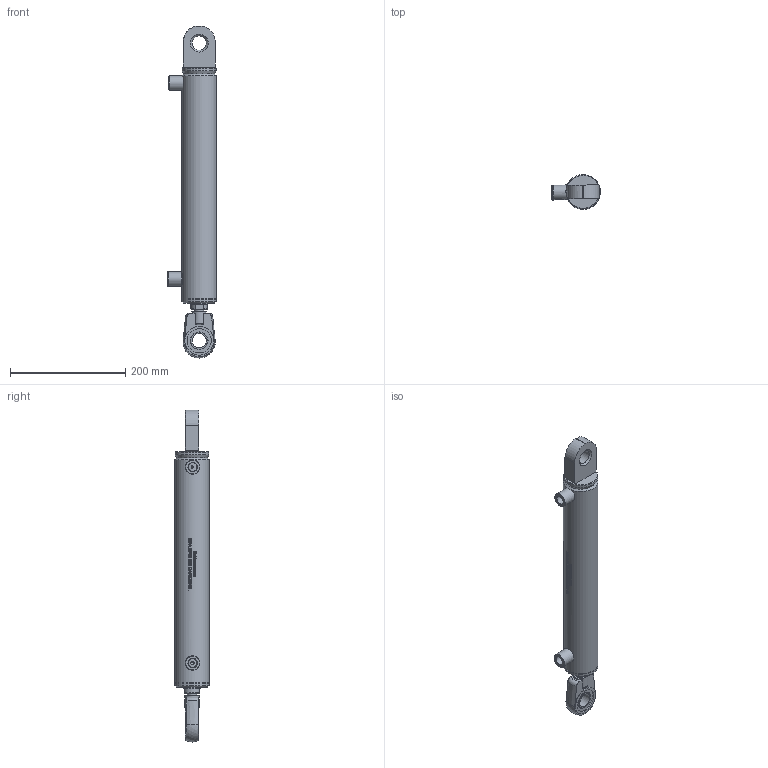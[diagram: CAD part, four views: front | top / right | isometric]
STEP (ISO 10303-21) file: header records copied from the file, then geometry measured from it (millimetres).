
FILE_DESCRIPTION(/* description */ (''),/* implementation_level */ '2;1');
FILE_NAME(/* name */ 'HCA_50_30_300_RK_MFSL.step',/* time_stamp */ '2023-01-22T21:36:42+03:00',/* author */ (''),/* organization */ (''),/* preprocessor_version */ 'ST-DEVELOPER v19.2',/* originating_system */ 'Autodesk Translation Framework v11.17.0.187',/* authorisation */ '');
FILE_SCHEMA (('AUTOMOTIVE_DESIGN { 1 0 10303 214 3 1 1 }'));
Length unit declared in the file: millimetre
Products named in the file (14): HCA_50_30_500_ÖRK_MFSL_WEB; 50arkakapak; RMK_RMK 25; TDK_50_30_M54x1,5; KO-45X3; K22-30X40X8; K06-30X38_6X5_3X7; RMV_25; dgihl_25_do; Ø50_HON_BORU_WEB; Bileşen1; 30_K_MIL_WEB; Bileşen1_1; Manşon_3_8
Assembly tree (14 placements, depth 3):
  HCA_50_30_500_ÖRK_MFSL_WEB
    50arkakapak
    RMK_RMK 25
    TDK_50_30_M54x1,5
      KO-45X3
      K22-30X40X8
      K06-30X38_6X5_3X7
    RMV_25
      dgihl_25_do
    Ø50_HON_BORU_WEB
      Bileşen1
    30_K_MIL_WEB
      Bileşen1_1
    Manşon_3_8  x2
Bounding box: 84.74 x 59.99 x 576 mm (x, y, z)
Volume: 659720.4 mm3; surface area: 221190.9 mm2
Topology: 11 solids, 11 shells, 791 faces, 2091 edges, 1385 vertices
Faces by surface type: bspline 408, plane 263, cylinder 61, cone 44, torus 12, sphere 3
Full cylindrical faces by diameter (mm): 4 x2, 6 x1, 14.376 x1, 15.25 x2, 15.85 x1, 19.85 x1, 25 x6, 30 x4, 30.6 x1, 31.6 x1, 34.835 x1, 38.6 x2, 40 x2, 42 x2, 45.5 x1, 49.94 x1, 50 x3, 51 x4, 53.526 x1, 54.85 x1, 55.5 x1, 59 x1, 60 x2
Entity records: 37345 total; most frequent: CARTESIAN_POINT 20078, ORIENTED_EDGE 4148, DIRECTION 2317, EDGE_CURVE 2074, VERTEX_POINT 1375, LINE 935, VECTOR 935, EDGE_LOOP 867
